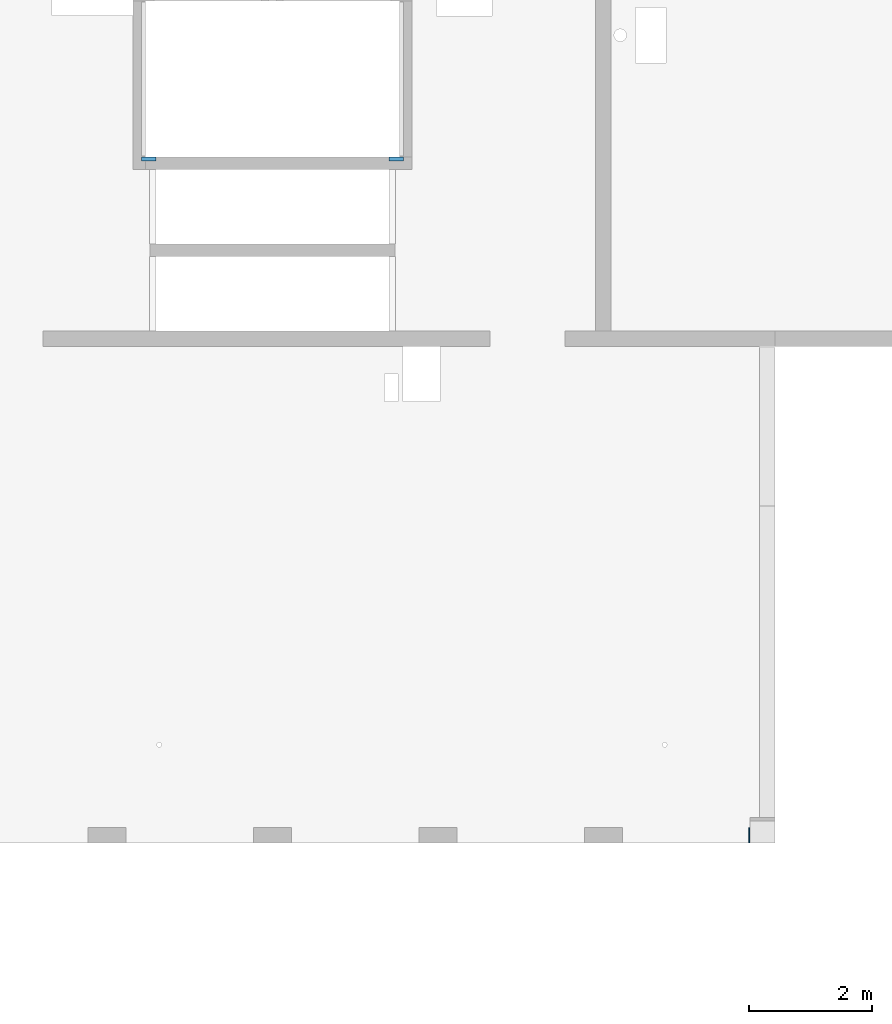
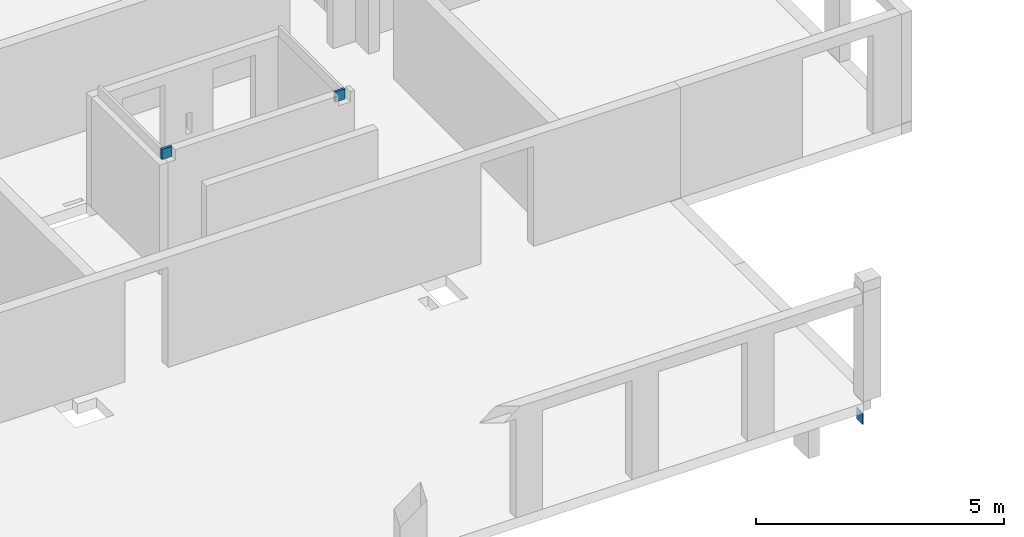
# One storey, part 9 of 12: 3 walls, 1 opening.
"""IFC2X3 building model written with IfcOpenShell, lengths in millimetres."""

from ifc_helpers import new_model, entity, si_unit, converted_unit, derived_unit, direction, frame, frame_2d, origin, place, context, subcontext, project, spatial, rectangle, extrude, material, layer, layer_set, layer_usage, type_object, element, save


model = new_model("IFC2X3")

# Units and contexts
model_context = context("Model", 3, precision=0.01, world=origin(), true_north=direction((6.12303176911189e-17, 1.0)))
body_context = subcontext(model_context, "Body", "Model", "MODEL_VIEW")
ifc_project = project(units=[si_unit("LENGTHUNIT", "METRE", prefix="MILLI"), si_unit("AREAUNIT", "SQUARE_METRE"), si_unit("VOLUMEUNIT", "CUBIC_METRE"), converted_unit("PLANEANGLEUNIT", "DEGREE", entity("IfcRatioMeasure", 0.0174532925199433), si_unit("PLANEANGLEUNIT", "RADIAN"), dimensions=[0, 0, 0, 0, 0, 0, 0]), si_unit("MASSUNIT", "GRAM", prefix="KILO"), derived_unit("MASSDENSITYUNIT", [(si_unit("MASSUNIT", "GRAM", prefix="KILO"), 1), (si_unit("LENGTHUNIT", "METRE"), -3)]), si_unit("TIMEUNIT", "SECOND"), si_unit("FREQUENCYUNIT", "HERTZ"), si_unit("THERMODYNAMICTEMPERATUREUNIT", "DEGREE_CELSIUS"), derived_unit("THERMALTRANSMITTANCEUNIT", [(si_unit("MASSUNIT", "GRAM", prefix="KILO"), 1), (si_unit("THERMODYNAMICTEMPERATUREUNIT", "KELVIN"), -1), (si_unit("TIMEUNIT", "SECOND"), -3)]), derived_unit("VOLUMETRICFLOWRATEUNIT", [(si_unit("LENGTHUNIT", "METRE"), 3), (si_unit("TIMEUNIT", "SECOND"), -1)]), si_unit("ELECTRICCURRENTUNIT", "AMPERE"), si_unit("ELECTRICVOLTAGEUNIT", "VOLT"), si_unit("POWERUNIT", "WATT"), si_unit("FORCEUNIT", "NEWTON", prefix="KILO"), si_unit("ILLUMINANCEUNIT", "LUX"), si_unit("LUMINOUSFLUXUNIT", "LUMEN"), si_unit("LUMINOUSINTENSITYUNIT", "CANDELA"), derived_unit("USERDEFINED", [(si_unit("MASSUNIT", "GRAM", prefix="KILO"), -1), (si_unit("LENGTHUNIT", "METRE"), -2), (si_unit("TIMEUNIT", "SECOND"), 3), (si_unit("LUMINOUSFLUXUNIT", "LUMEN"), 1)]), derived_unit("LINEARVELOCITYUNIT", [(si_unit("LENGTHUNIT", "METRE"), 1), (si_unit("TIMEUNIT", "SECOND"), -1)]), si_unit("PRESSUREUNIT", "PASCAL"), derived_unit("USERDEFINED", [(si_unit("LENGTHUNIT", "METRE"), -2), (si_unit("MASSUNIT", "GRAM", prefix="KILO"), 1), (si_unit("TIMEUNIT", "SECOND"), -2)])], contexts=[model_context])

# Site, building, storey
site_placement = place(None, origin())
site = spatial("IfcSite", under=ifc_project, at=site_placement, Name="Default", CompositionType="ELEMENT")
building_placement = place(site_placement, origin())
building = spatial("IfcBuilding", under=site, at=building_placement, Name="niet gebruiken", CompositionType="ELEMENT")
storey_placement = place(building_placement, frame((0.0, 0.0, 18540.0)))
storey = spatial("IfcBuildingStorey", under=building, at=storey_placement, Name="06 zesde verdieping", CompositionType="ELEMENT", Elevation=18540.0)

# Wall, opening
ifc_material_1 = material(Name="NLRS_f2_beton ihwg")
ifc_layer_1 = layer(ifc_material_1, 250.0)
ifc_layer_set_1 = layer_set([ifc_layer_1], Name="Basic Wall:NLRS_21.21_WA_beton ihwg d=250_gen")
ifc_layer_usage_1 = layer_usage(ifc_layer_set_1, "AXIS2", "NEGATIVE", 125.0)
wall_type_1 = type_object("IfcWallType", Name="Basic Wall:NLRS_21.21_WA_beton ihwg d=250_gen", PredefinedType="STANDARD", material=ifc_layer_set_1)
wall_1_placement = place(storey_placement, frame((50970.0, 28881.0, -620.0)))
wall_1 = element("IfcWallStandardCase", 1, at=wall_1_placement, inside=storey, type_object=wall_type_1, material=ifc_layer_usage_1, Name="Basic Wall:NLRS_21.21_WA_beton ihwg d=250_gen", ObjectType="Basic Wall:NLRS_21.21_WA_beton ihwg d=250_gen", context=body_context, shape_type="SweptSolid", body=[
    extrude(rectangle(XDim=19.999999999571, YDim=250.000000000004, at=frame_2d((9.99999999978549, 1.63424829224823e-13), x_axis=(-1.0, 0.0))), origin(), (0.0, 0.0, 1.0), 280.000000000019),
])
opening_placement = place(wall_1_placement, origin())
element("IfcOpeningElement", 2, at=opening_placement, cuts=wall_1, Name="Basic Wall:NLRS_21.21_WA_beton ihwg d=250_gen", ObjectType="Opening", context=body_context, shape_type="SweptSolid", body=[
    extrude(rectangle(XDim=2440.0, YDim=2080.0, at=frame_2d((0.0, -1.13686837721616e-12), x_axis=(0.0, 1.0))), frame((-1020.0, -1399.0, -1220.0), z_axis=(0.0, 1.0, 0.0), x_axis=(-1.0, 0.0, 0.0)), (0.0, 0.0, 1.0), 3048.0),
])

# Walls
ifc_material_2 = material(Name="NLRS_f2_beton prefab")
ifc_layer_2 = layer(ifc_material_2, 60.0)
ifc_layer_set_2 = layer_set([ifc_layer_2], Name="Basic Wall:NLRS_22.21_WA_beton prefab d=60_gen")
ifc_layer_usage_2 = layer_usage(ifc_layer_set_2, "AXIS2", "NEGATIVE", 30.0)
wall_type_2 = type_object("IfcWallType", Name="Basic Wall:NLRS_22.21_WA_beton prefab d=60_gen", PredefinedType="STANDARD", material=ifc_layer_set_2)
wall_2_placement = place(storey_placement, frame((41065.02321398, 39916.0, 2630.0)))
element("IfcWallStandardCase", 3, at=wall_2_placement, inside=storey, type_object=wall_type_2, material=ifc_layer_usage_2, Name="Basic Wall:NLRS_22.21_WA_beton prefab d=60_gen", ObjectType="Basic Wall:NLRS_22.21_WA_beton prefab d=60_gen", context=body_context, shape_type="SweptSolid", body=[
    extrude(rectangle(XDim=234.976753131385, YDim=60.0000000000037, at=frame_2d((117.488376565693, -4.12292422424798e-12), x_axis=(-1.0, 0.0))), origin(), (0.0, 0.0, 1.0), 250.000000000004),
])
ifc_layer_usage_3 = layer_usage(ifc_layer_set_2, "AXIS2", "POSITIVE", -30.0)
wall_3_placement = place(storey_placement, frame((45334.9767860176, 39916.0, 2630.0), z_axis=(0.0, 0.0, 1.0), x_axis=(-1.0, 0.0, 0.0)))
element("IfcWallStandardCase", 4, at=wall_3_placement, inside=storey, type_object=wall_type_2, material=ifc_layer_usage_3, Name="Basic Wall:NLRS_22.21_WA_beton prefab d=60_gen", ObjectType="Basic Wall:NLRS_22.21_WA_beton prefab d=60_gen", context=body_context, shape_type="SweptSolid", body=[
    extrude(rectangle(XDim=234.976753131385, YDim=60.0000000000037, at=frame_2d((117.488376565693, 4.12114786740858e-12), x_axis=(-1.0, 0.0))), origin(), (0.0, 0.0, 1.0), 250.000000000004),
])

save(model, "model.ifc")
